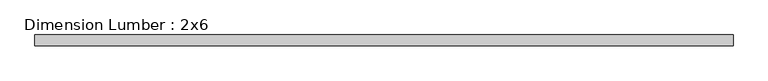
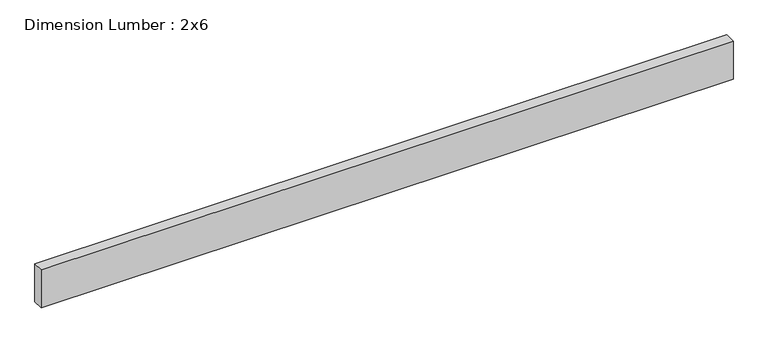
"""IFC4 building model written with IfcOpenShell, lengths in millimetres: beam geometry, Dimension Lumber : 2x6."""

import ifcopenshell
import ifcopenshell.guid

model = None  # the IFC model being written
_history = None  # IfcOwnerHistory: only IFC2X3 demands one
_inside = {}  # id of a spatial element -> (the spatial element, [elements in it])
_under = {}  # id of a project, library or spatial element -> (it, [spatial elements below it])
_declared = {}  # id of a project -> (the project, [libraries it declares])
_typed = {}  # id of a type object -> (the type object, [elements of that type])
_made_of = {}  # id of a material, layer set ... -> (it, [elements and type objects made of it])


def new_model(schema):
    """Start an empty IFC model of exactly this schema.

    Asked for "IFC4X3", IfcOpenShell would pick the latest addendum, in which some entities
    have other attributes; the version numbers below select the first issue.
    IFC2X3 requires an IfcOwnerHistory on every rooted entity: one is made here for all.
    """
    global model, _history
    if schema == "IFC4X3":
        model = ifcopenshell.file(schema_version=(4, 3, 0, 0))
    else:
        model = ifcopenshell.file(schema=schema)
    _inside.clear()
    _under.clear()
    _declared.clear()
    _typed.clear()
    _made_of.clear()
    _history = None
    if model.schema == "IFC2X3":
        org = make("IfcOrganization", Name="unknown")
        user = make(
            "IfcPersonAndOrganization",
            ThePerson=make("IfcPerson", FamilyName="unknown"),
            TheOrganization=org,
        )
        app = make(
            "IfcApplication",
            ApplicationDeveloper=org,
            Version="unknown",
            ApplicationFullName="unknown",
            ApplicationIdentifier="unknown",
        )
        _history = make(
            "IfcOwnerHistory",
            OwningUser=user,
            OwningApplication=app,
            ChangeAction="ADDED",
            CreationDate=0,
        )
    return model


def make(cls, **values):
    """One entity of the class cls with the attributes given. An attribute that is None is left unset."""
    return model.create_entity(
        cls, **{name: value for name, value in values.items() if value is not None}
    )


def rooted(cls, **values):
    """An entity with a GlobalId (a new one), such as an element, a storey or a relation."""
    return make(cls, GlobalId=ifcopenshell.guid.new(), OwnerHistory=_history, **values)


def si_unit(unit_type, name, prefix=None):
    """IfcSIUnit, for example si_unit("LENGTHUNIT", "METRE", prefix="MILLI")."""
    return make("IfcSIUnit", UnitType=unit_type, Prefix=prefix, Name=name)


def assignment(units):
    """IfcUnitAssignment: the units of a project."""
    return None if units is None else make("IfcUnitAssignment", Units=units)


def point(xyz):
    """IfcCartesianPoint."""
    return None if xyz is None else make("IfcCartesianPoint", Coordinates=xyz)


def direction(xyz):
    """IfcDirection."""
    return None if xyz is None else make("IfcDirection", DirectionRatios=xyz)


def frame(location, z_axis=None, x_axis=None):
    """IfcAxis2Placement3D, a coordinate frame: its origin and axes. An axis left out is left unset."""
    return make(
        "IfcAxis2Placement3D",
        Location=point(location),
        Axis=direction(z_axis),
        RefDirection=direction(x_axis),
    )


def origin():
    """The frame at (0, 0, 0) with its axes left unset."""
    return frame((0.0, 0.0, 0.0))


def place(relative_to, where):
    """IfcLocalPlacement: puts the frame where relative to a parent placement (None: the world)."""
    return make(
        "IfcLocalPlacement", PlacementRelTo=relative_to, RelativePlacement=where
    )


def context(
    kind, dimensions, precision=None, world=None, true_north=None, identifier=None
):
    """IfcGeometricRepresentationContext, for example the 3D "Model" context."""
    return make(
        "IfcGeometricRepresentationContext",
        ContextIdentifier=identifier,
        ContextType=kind,
        CoordinateSpaceDimension=dimensions,
        Precision=precision,
        WorldCoordinateSystem=world,
        TrueNorth=true_north,
    )


def project(units=None, contexts=None):
    """IfcProject with its units and contexts."""
    return rooted(
        "IfcProject",
        Name="project",
        RepresentationContexts=contexts,
        UnitsInContext=assignment(units),
    )


def spatial(cls, under=None, at=None, **own):
    """A site, building, storey or space (cls), placed at a placement, below another one or the project."""
    s = rooted(cls, ObjectPlacement=at, **own)
    if under is not None:
        _under.setdefault(under.id(), (under, []))[1].append(s)
    return s


def polyline(points):
    """IfcPolyline through the points."""
    return make("IfcPolyline", Points=[point(p) for p in points])


def outline(outer, holes=None, kind="AREA"):
    """IfcArbitraryClosedProfileDef: a profile drawn as a closed curve; with holes, ...WithVoids."""
    if holes is None:
        return make("IfcArbitraryClosedProfileDef", ProfileType=kind, OuterCurve=outer)
    return make(
        "IfcArbitraryProfileDefWithVoids",
        ProfileType=kind,
        OuterCurve=outer,
        InnerCurves=holes,
    )


def extrude(swept, where, along, depth):
    """IfcExtrudedAreaSolid: the profile swept, set in the frame where, extruded along a direction by depth."""
    return make(
        "IfcExtrudedAreaSolid",
        SweptArea=swept,
        Position=where,
        ExtrudedDirection=direction(along),
        Depth=depth,
    )


def shape(context_of_items, identifier, shape_type, items):
    """IfcShapeRepresentation: the items that make up one representation, for example the "Body"."""
    return make(
        "IfcShapeRepresentation",
        ContextOfItems=context_of_items,
        RepresentationIdentifier=identifier,
        RepresentationType=shape_type,
        Items=items,
    )


def source(mapping_origin, context_of_items, identifier, shape_type, items):
    """IfcRepresentationMap: a shape defined once, which mapped items show again and again."""
    return make(
        "IfcRepresentationMap",
        MappingOrigin=mapping_origin,
        MappedRepresentation=shape(context_of_items, identifier, shape_type, items),
    )


def transform(
    local_origin,
    x_axis=None,
    y_axis=None,
    z_axis=None,
    scale=None,
    scale2=None,
    scale3=None,
    uniform=True,
):
    """IfcCartesianTransformationOperator3D, or its non-uniform kind. x_axis, y_axis, z_axis: its Axis1, 2, 3."""
    if uniform:
        return make(
            "IfcCartesianTransformationOperator3D",
            Axis1=direction(x_axis),
            Axis2=direction(y_axis),
            LocalOrigin=point(local_origin),
            Scale=scale,
            Axis3=direction(z_axis),
        )
    return make(
        "IfcCartesianTransformationOperator3DnonUniform",
        Axis1=direction(x_axis),
        Axis2=direction(y_axis),
        LocalOrigin=point(local_origin),
        Scale=scale,
        Axis3=direction(z_axis),
        Scale2=scale2,
        Scale3=scale3,
    )


def mapped(mapping_source, mapping_target):
    """IfcMappedItem: shows the shape of a source again, moved by a transform."""
    return make(
        "IfcMappedItem", MappingSource=mapping_source, MappingTarget=mapping_target
    )


def made_of(thing, what):
    """Note that an element or type object is made of a material, layer set ...; save() writes the relation."""
    if what is not None:
        _made_of.setdefault(what.id(), (what, []))[1].append(thing)
    return thing


def element(
    cls,
    number,
    at=None,
    inside=None,
    cuts=None,
    type_object=None,
    material=None,
    context=None,
    identifier="Body",
    shape_type=None,
    held_by="IfcProductDefinitionShape",
    body=None,
    shapes=None,
    **own,
):
    """One element of the class cls, such as IfcWall. Its Tag is "e" and its number.

    at: its placement. inside: the storey or other place that contains it. cuts: it is an
    opening in that element (IfcRelVoidsElement). A single representation is given by context,
    identifier, shape_type and body (its items); several are given by shapes. held_by: the class
    of the entity that holds the representations. save() writes the other relations.
    """
    e = rooted(cls, Tag="e%d" % number, ObjectPlacement=at, **own)
    if body is not None:
        shapes = [shape(context, identifier, shape_type, body)]
    if shapes is not None:
        e.Representation = make(held_by, Representations=shapes)
    if inside is not None:
        _inside.setdefault(inside.id(), (inside, []))[1].append(e)
    if cuts is not None:
        rooted(
            "IfcRelVoidsElement", RelatingBuildingElement=cuts, RelatedOpeningElement=e
        )
    if type_object is not None:
        _typed.setdefault(type_object.id(), (type_object, []))[1].append(e)
    return made_of(e, material)


def aggregate(whole, parts):
    """IfcRelAggregates: a whole, such as a stair, and the parts it consists of."""
    return rooted("IfcRelAggregates", RelatingObject=whole, RelatedObjects=parts)


def save(model, path):
    """Write the relations noted so far, then the file.

    IfcRelAggregates (storeys below a building ...), IfcRelContainedInSpatialStructure (elements
    in a storey), IfcRelDefinesByType, IfcRelAssociatesMaterial and IfcRelDeclares: one each for
    every whole, place, type object, material and project.
    """
    for whole, parts in _under.values():
        aggregate(whole, parts)
    for where, things in _inside.values():
        rooted(
            "IfcRelContainedInSpatialStructure",
            RelatedElements=things,
            RelatingStructure=where,
        )
    for kind, things in _typed.values():
        rooted("IfcRelDefinesByType", RelatedObjects=things, RelatingType=kind)
    for what, things in _made_of.values():
        rooted("IfcRelAssociatesMaterial", RelatedObjects=things, RelatingMaterial=what)
    for by, libraries in _declared.values():
        rooted("IfcRelDeclares", RelatingContext=by, RelatedDefinitions=libraries)
    model.write(path)


def dimension_lumber_2x6_72b217a7(model_context):
    return source(origin(), model_context, "Body", "SweptSolid", [
        extrude(outline(polyline([(1201.7375, 19.05), (1201.7375, -19.05), (-1201.7375, -19.05), (-1201.7375, 19.05), (1201.7375, 19.05)])), frame((0.0, 0.0, -69.85), z_axis=(0.0, 0.0, 1.0), x_axis=(1.0, 0.0, 0.0)), (0.0, 0.0, 1.0), 139.7),
    ])


if __name__ == "__main__":
    model = new_model("IFC4")
    model_context = context("Model", 3, world=origin())
    ifc_project = project(units=[si_unit("LENGTHUNIT", "METRE", prefix="MILLI")], contexts=[model_context])
    site = spatial("IfcSite", under=ifc_project)
    building = spatial("IfcBuilding", under=site)
    placement = place(None, origin())
    dimension_lumber_2x6_shape = dimension_lumber_2x6_72b217a7(model_context)
    element("IfcBeam", 1, ObjectType="Dimension Lumber : 2x6", at=placement, inside=building, context=model_context, shape_type="MappedRepresentation", body=[
        mapped(dimension_lumber_2x6_shape, transform((0.0, 0.0, 0.0), x_axis=(1.0, 0.0, 0.0), y_axis=(0.0, 1.0, 0.0), z_axis=(0.0, 0.0, 1.0))),
    ])
    save(model, "model.ifc")
